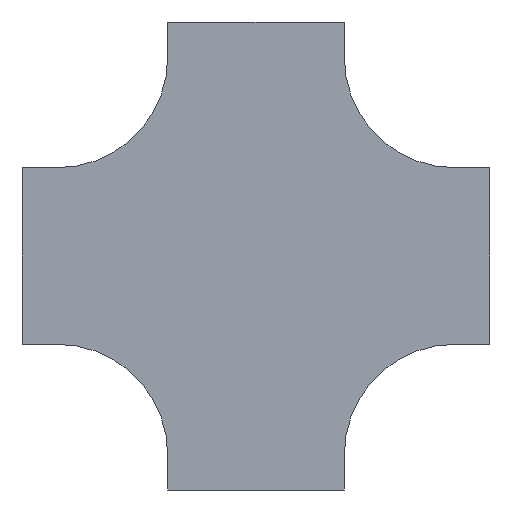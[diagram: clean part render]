
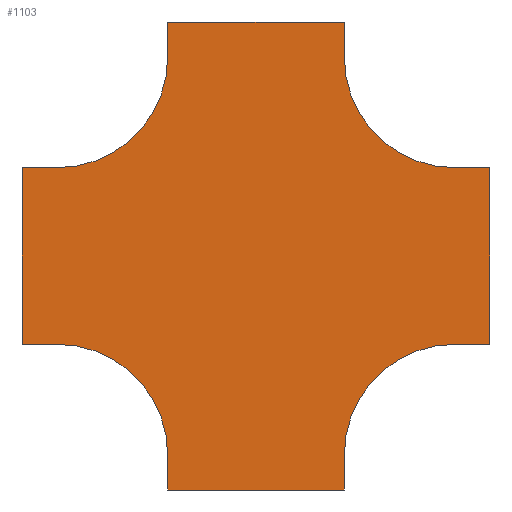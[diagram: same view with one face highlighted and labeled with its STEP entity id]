
A CAD part, front view. The second image highlights one B-rep face of the part: STEP entity #1103.
In plain terms, the highlighted planar face has unit normal (0, -1, 0).
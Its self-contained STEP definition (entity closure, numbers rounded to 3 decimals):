
#51 = EDGE_CURVE ( 'NONE', #692, #807, #1977, .T. ) ;
#52 = DIRECTION ( 'NONE',  ( 0., -1., 0. ) ) ;
#70 = EDGE_CURVE ( 'NONE', #1173, #3119, #2841, .T. ) ;
#87 = CARTESIAN_POINT ( 'NONE',  ( 0., 0., -325. ) ) ;
#95 = ORIENTED_EDGE ( 'NONE', *, *, #2153, .F. ) ;
#103 = EDGE_CURVE ( 'NONE', #2043, #1424, #2374, .T. ) ;
#131 = VECTOR ( 'NONE', #2703, 1000. ) ;
#152 = DIRECTION ( 'NONE',  ( -1., 0., 0. ) ) ;
#164 = EDGE_CURVE ( 'NONE', #3163, #2492, #1432, .T. ) ;
#177 = LINE ( 'NONE', #2671, #2823 ) ;
#188 = CARTESIAN_POINT ( 'NONE',  ( -450., 0., -125. ) ) ;
#281 = CIRCLE ( 'NONE', #2948, 125. ) ;
#310 = CARTESIAN_POINT ( 'NONE',  ( -490., 0., -125. ) ) ;
#333 = CARTESIAN_POINT ( 'NONE',  ( -125., 0., -450. ) ) ;
#339 = CARTESIAN_POINT ( 'NONE',  ( -450., 0., 0. ) ) ;
#348 = AXIS2_PLACEMENT_3D ( 'NONE', #1423, #2651, #1946 ) ;
#359 = ORIENTED_EDGE ( 'NONE', *, *, #103, .F. ) ;
#386 = CARTESIAN_POINT ( 'NONE',  ( -125., 0., -490. ) ) ;
#400 = CARTESIAN_POINT ( 'NONE',  ( -325., 0., -490. ) ) ;
#470 = LINE ( 'NONE', #1475, #3151 ) ;
#476 = AXIS2_PLACEMENT_3D ( 'NONE', #835, #2586, #1848 ) ;
#547 = PLANE ( 'NONE',  #476 ) ;
#574 = ORIENTED_EDGE ( 'NONE', *, *, #164, .F. ) ;
#578 = CARTESIAN_POINT ( 'NONE',  ( 40., 0., -325. ) ) ;
#591 = VECTOR ( 'NONE', #152, 1000. ) ;
#605 = DIRECTION ( 'NONE',  ( 0., 0., 1. ) ) ;
#617 = EDGE_CURVE ( 'NONE', #715, #1173, #1384, .T. ) ;
#621 = CARTESIAN_POINT ( 'NONE',  ( 0., 0., -450. ) ) ;
#648 = CARTESIAN_POINT ( 'NONE',  ( -325., 0., 0. ) ) ;
#661 = DIRECTION ( 'NONE',  ( 0., 0., 1. ) ) ;
#675 = CARTESIAN_POINT ( 'NONE',  ( -325., 0., 40. ) ) ;
#692 = VERTEX_POINT ( 'NONE', #2605 ) ;
#714 = CARTESIAN_POINT ( 'NONE',  ( 40., 0., -125. ) ) ;
#715 = VERTEX_POINT ( 'NONE', #2642 ) ;
#717 = ORIENTED_EDGE ( 'NONE', *, *, #1768, .F. ) ;
#724 = CARTESIAN_POINT ( 'NONE',  ( -450., 0., -450. ) ) ;
#747 = VERTEX_POINT ( 'NONE', #1851 ) ;
#803 = DIRECTION ( 'NONE',  ( 0., -1., 0. ) ) ;
#807 = VERTEX_POINT ( 'NONE', #648 ) ;
#835 = CARTESIAN_POINT ( 'NONE',  ( 0., 0., 0. ) ) ;
#851 = AXIS2_PLACEMENT_3D ( 'NONE', #724, #803, #1817 ) ;
#853 = VECTOR ( 'NONE', #3079, 1000. ) ;
#868 = VECTOR ( 'NONE', #1715, 1000. ) ;
#925 = EDGE_CURVE ( 'NONE', #2638, #2866, #3013, .T. ) ;
#933 = CARTESIAN_POINT ( 'NONE',  ( 0., 0., -125. ) ) ;
#979 = CIRCLE ( 'NONE', #348, 125. ) ;
#1005 = VECTOR ( 'NONE', #2278, 1000. ) ;
#1038 = ORIENTED_EDGE ( 'NONE', *, *, #2624, .F. ) ;
#1055 = LINE ( 'NONE', #310, #1449 ) ;
#1062 = EDGE_LOOP ( 'NONE', ( #2444, #1038, #1801, #717, #95, #1412, #2789, #2568, #1910, #574, #1440, #359, #1435, #2534, #2222, #1745 ) ) ;
#1103 = ADVANCED_FACE ( 'NONE', ( #2369 ), #547, .T. ) ;
#1135 = VECTOR ( 'NONE', #2388, 1000. ) ;
#1153 = EDGE_CURVE ( 'NONE', #3118, #1719, #177, .T. ) ;
#1173 = VERTEX_POINT ( 'NONE', #1415 ) ;
#1259 = CARTESIAN_POINT ( 'NONE',  ( -125., 0., 40. ) ) ;
#1277 = VECTOR ( 'NONE', #1641, 1000. ) ;
#1297 = DIRECTION ( 'NONE',  ( 0., 0., 1. ) ) ;
#1384 = CIRCLE ( 'NONE', #851, 125. ) ;
#1412 = ORIENTED_EDGE ( 'NONE', *, *, #70, .F. ) ;
#1415 = CARTESIAN_POINT ( 'NONE',  ( -450., 0., -325. ) ) ;
#1423 = CARTESIAN_POINT ( 'NONE',  ( 0., 0., 0. ) ) ;
#1424 = VERTEX_POINT ( 'NONE', #3123 ) ;
#1432 = LINE ( 'NONE', #386, #1277 ) ;
#1435 = ORIENTED_EDGE ( 'NONE', *, *, #2962, .F. ) ;
#1440 = ORIENTED_EDGE ( 'NONE', *, *, #2229, .F. ) ;
#1449 = VECTOR ( 'NONE', #2064, 1000. ) ;
#1475 = CARTESIAN_POINT ( 'NONE',  ( -325., 0., -490. ) ) ;
#1564 = VERTEX_POINT ( 'NONE', #2159 ) ;
#1609 = EDGE_CURVE ( 'NONE', #2866, #3118, #979, .T. ) ;
#1641 = DIRECTION ( 'NONE',  ( 0., 0., -1. ) ) ;
#1671 = LINE ( 'NONE', #400, #131 ) ;
#1691 = CARTESIAN_POINT ( 'NONE',  ( 40., 0., -125. ) ) ;
#1715 = DIRECTION ( 'NONE',  ( 1., 0., 0. ) ) ;
#1719 = VERTEX_POINT ( 'NONE', #714 ) ;
#1741 = DIRECTION ( 'NONE',  ( 0., -1., 0. ) ) ;
#1745 = ORIENTED_EDGE ( 'NONE', *, *, #925, .F. ) ;
#1758 = DIRECTION ( 'NONE',  ( 1., 0., 0. ) ) ;
#1768 = EDGE_CURVE ( 'NONE', #747, #692, #2042, .T. ) ;
#1801 = ORIENTED_EDGE ( 'NONE', *, *, #51, .F. ) ;
#1817 = DIRECTION ( 'NONE',  ( 0., 0., -1. ) ) ;
#1824 = CARTESIAN_POINT ( 'NONE',  ( -125., 0., -490. ) ) ;
#1848 = DIRECTION ( 'NONE',  ( 0., 0., -1. ) ) ;
#1851 = CARTESIAN_POINT ( 'NONE',  ( -490., 0., -125. ) ) ;
#1856 = DIRECTION ( 'NONE',  ( 0., 0., 1. ) ) ;
#1910 = ORIENTED_EDGE ( 'NONE', *, *, #2973, .F. ) ;
#1946 = DIRECTION ( 'NONE',  ( 0., 0., -1. ) ) ;
#1977 = CIRCLE ( 'NONE', #2560, 125. ) ;
#2003 = CARTESIAN_POINT ( 'NONE',  ( -490., 0., -325. ) ) ;
#2042 = LINE ( 'NONE', #188, #2854 ) ;
#2043 = VERTEX_POINT ( 'NONE', #578 ) ;
#2064 = DIRECTION ( 'NONE',  ( 0., 0., 1. ) ) ;
#2153 = EDGE_CURVE ( 'NONE', #3119, #747, #1055, .T. ) ;
#2159 = CARTESIAN_POINT ( 'NONE',  ( -325., 0., 40. ) ) ;
#2222 = ORIENTED_EDGE ( 'NONE', *, *, #1609, .F. ) ;
#2229 = EDGE_CURVE ( 'NONE', #1424, #3163, #281, .T. ) ;
#2278 = DIRECTION ( 'NONE',  ( 0., 0., -1. ) ) ;
#2312 = EDGE_CURVE ( 'NONE', #1564, #2638, #2960, .T. ) ;
#2328 = EDGE_CURVE ( 'NONE', #2505, #715, #470, .T. ) ;
#2346 = LINE ( 'NONE', #2629, #3100 ) ;
#2369 = FACE_OUTER_BOUND ( 'NONE', #1062, .T. ) ;
#2374 = LINE ( 'NONE', #87, #591 ) ;
#2380 = CARTESIAN_POINT ( 'NONE',  ( -125., 0., 40. ) ) ;
#2388 = DIRECTION ( 'NONE',  ( 0., 0., -1. ) ) ;
#2444 = ORIENTED_EDGE ( 'NONE', *, *, #2312, .F. ) ;
#2492 = VERTEX_POINT ( 'NONE', #1824 ) ;
#2505 = VERTEX_POINT ( 'NONE', #3052 ) ;
#2534 = ORIENTED_EDGE ( 'NONE', *, *, #1153, .F. ) ;
#2560 = AXIS2_PLACEMENT_3D ( 'NONE', #339, #52, #1297 ) ;
#2568 = ORIENTED_EDGE ( 'NONE', *, *, #2328, .F. ) ;
#2586 = DIRECTION ( 'NONE',  ( 0., -1., 0. ) ) ;
#2605 = CARTESIAN_POINT ( 'NONE',  ( -450., 0., -125. ) ) ;
#2621 = CARTESIAN_POINT ( 'NONE',  ( -125., 0., 0. ) ) ;
#2624 = EDGE_CURVE ( 'NONE', #807, #1564, #2346, .T. ) ;
#2629 = CARTESIAN_POINT ( 'NONE',  ( -325., 0., 40. ) ) ;
#2638 = VERTEX_POINT ( 'NONE', #2380 ) ;
#2642 = CARTESIAN_POINT ( 'NONE',  ( -325., 0., -450. ) ) ;
#2651 = DIRECTION ( 'NONE',  ( 0., -1., 0. ) ) ;
#2671 = CARTESIAN_POINT ( 'NONE',  ( 0., 0., -125. ) ) ;
#2703 = DIRECTION ( 'NONE',  ( -1., 0., 0. ) ) ;
#2789 = ORIENTED_EDGE ( 'NONE', *, *, #617, .F. ) ;
#2821 = CARTESIAN_POINT ( 'NONE',  ( -450., 0., -325. ) ) ;
#2823 = VECTOR ( 'NONE', #3193, 1000. ) ;
#2841 = LINE ( 'NONE', #2821, #853 ) ;
#2854 = VECTOR ( 'NONE', #1758, 1000. ) ;
#2866 = VERTEX_POINT ( 'NONE', #2621 ) ;
#2935 = LINE ( 'NONE', #1691, #1135 ) ;
#2948 = AXIS2_PLACEMENT_3D ( 'NONE', #621, #1741, #605 ) ;
#2960 = LINE ( 'NONE', #675, #868 ) ;
#2962 = EDGE_CURVE ( 'NONE', #1719, #2043, #2935, .T. ) ;
#2973 = EDGE_CURVE ( 'NONE', #2492, #2505, #1671, .T. ) ;
#3013 = LINE ( 'NONE', #1259, #1005 ) ;
#3052 = CARTESIAN_POINT ( 'NONE',  ( -325., 0., -490. ) ) ;
#3079 = DIRECTION ( 'NONE',  ( -1., 0., 0. ) ) ;
#3100 = VECTOR ( 'NONE', #1856, 1000. ) ;
#3118 = VERTEX_POINT ( 'NONE', #933 ) ;
#3119 = VERTEX_POINT ( 'NONE', #2003 ) ;
#3123 = CARTESIAN_POINT ( 'NONE',  ( 0., 0., -325. ) ) ;
#3151 = VECTOR ( 'NONE', #661, 1000. ) ;
#3163 = VERTEX_POINT ( 'NONE', #333 ) ;
#3193 = DIRECTION ( 'NONE',  ( 1., 0., 0. ) ) ;
